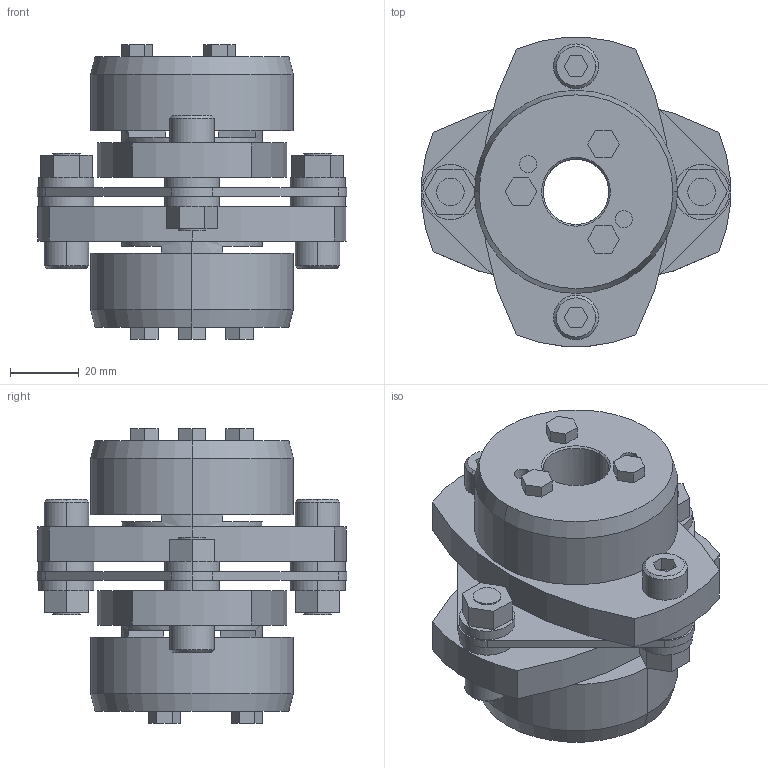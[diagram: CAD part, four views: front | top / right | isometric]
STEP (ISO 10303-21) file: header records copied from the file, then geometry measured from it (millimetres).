
FILE_DESCRIPTION((''),'2;1');
FILE_NAME('LCS-90T7-19×20.stp','2011-09-09T09:51:32',(''),(''),'AutoCAD STEP 2000i','AutoCAD 2000i',', , ');
FILE_SCHEMA(('CONFIG_CONTROL_DESIGN'));
Length unit declared in the file: millimetre
Products named in the file (7): LCS-90T7-19×19; 忣兜1; LC90T7-T019-1; LC90T7-T019; LC90-B019-1; LC90-B019; LCS90-ITA
Assembly tree (6 placements, depth 2):
  LCS-90T7-19×19
    忣兜1
    LC90T7-T019-1
    LC90T7-T019
    LC90-B019-1
    LC90-B019
    LCS90-ITA
Bounding box: 90 x 89.94 x 85.5 mm (x, y, z)
Volume: 207563.1 mm3; surface area: 52519.8 mm2
Topology: 1 solids, 1 shells, 232 faces, 568 edges, 372 vertices
Faces by surface type: plane 132, cylinder 80, cone 20
Entity records: 7063 total; most frequent: DIRECTION 1242, CARTESIAN_POINT 1179, ORIENTED_EDGE 1136, EDGE_CURVE 568, AXIS2_PLACEMENT_3D 435, VERTEX_POINT 372, VECTOR 372, LINE 372
